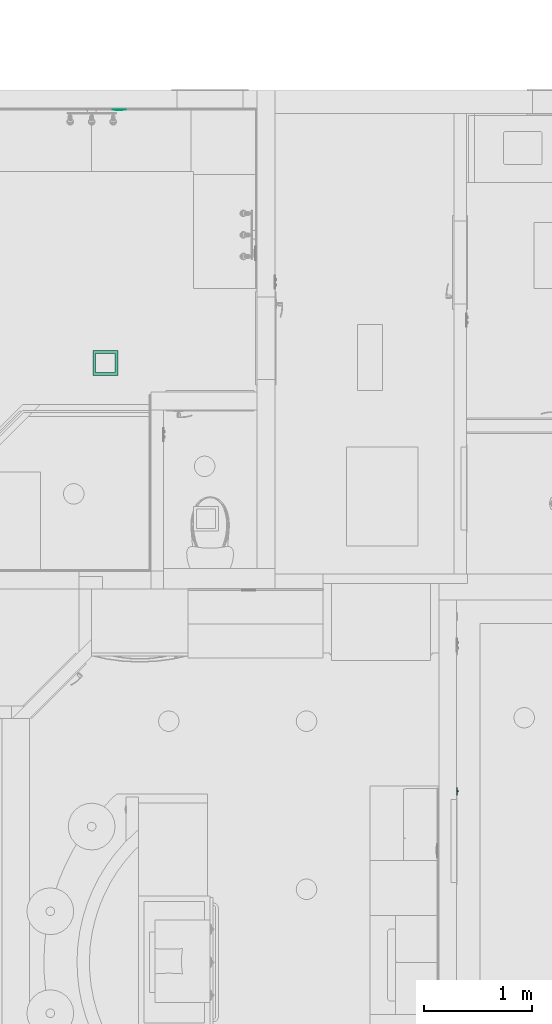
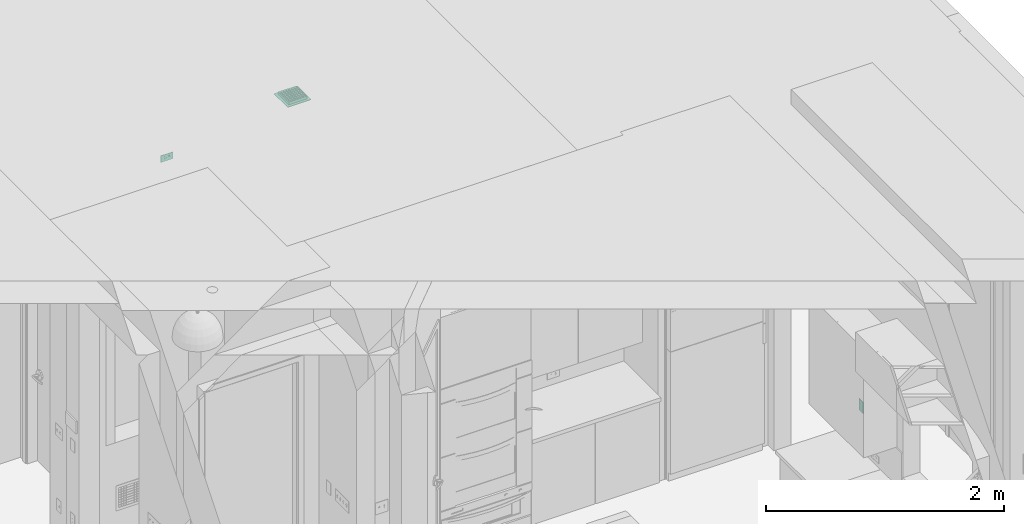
# One storey, part 26 of 103: 2 flow controllers, 1 distribution flow element.
"""IFC2X3 building model written with IfcOpenShell, lengths in inches."""

from ifc_helpers import new_model, entity, si_unit, converted_unit, derived_unit, money_unit, direction, frame, origin_with_axes, place, context, subcontext, project, spatial, open_shell, faceted_brep, surface_model, source, transform, mapped, type_object, element, save


model = new_model("IFC2X3")

# Units and contexts
model_context = context("Model", 3, precision=0.00039370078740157, world=origin_with_axes(), true_north=direction((0.0, 1.0)))
plan_context = context("Plan", 3, precision=0.00039370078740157, world=origin_with_axes(), true_north=direction((0.0, 1.0)))
body_context = subcontext(model_context, "Body", "Model", "MODEL_VIEW")
ifc_project = project(units=[converted_unit("LENGTHUNIT", "INCH", entity("IfcPositiveLengthMeasure", 0.0254), si_unit("LENGTHUNIT", "METRE"), dimensions=[1, 0, 0, 0, 0, 0, 0]), converted_unit("AREAUNIT", "SQUARE_FOOT", entity("IfcPositiveLengthMeasure", 0.09290304), si_unit("AREAUNIT", "SQUARE_METRE"), dimensions=[2, 0, 0, 0, 0, 0, 0]), si_unit("PLANEANGLEUNIT", "RADIAN"), si_unit("SOLIDANGLEUNIT", "STERADIAN"), money_unit("USD"), converted_unit("TIMEUNIT", "Year", entity("IfcTimeMeasure", 31557600.0), si_unit("TIMEUNIT", "SECOND"), dimensions=[0, 0, 1, 0, 0, 0, 0]), si_unit("MASSUNIT", "GRAM", prefix="KILO"), si_unit("THERMODYNAMICTEMPERATUREUNIT", "DEGREE_CELSIUS"), si_unit("LUMINOUSINTENSITYUNIT", "LUMEN"), si_unit("ENERGYUNIT", "JOULE", prefix="MEGA"), derived_unit("SPECIFICHEATCAPACITYUNIT", [(si_unit("ENERGYUNIT", "JOULE"), 1), (si_unit("MASSUNIT", "GRAM", prefix="KILO"), -1), (si_unit("THERMODYNAMICTEMPERATUREUNIT", "KELVIN"), -1)])], contexts=[model_context, plan_context])

# Site, building, storey
site_placement = place(None, origin_with_axes())
site = spatial("IfcSite", under=ifc_project, at=site_placement, Name="Site", CompositionType="ELEMENT")
building_placement = place(site_placement, origin_with_axes())
building = spatial("IfcBuilding", under=site, at=building_placement, Name="Building", CompositionType="ELEMENT")
storey_placement = place(building_placement, frame((0.0, 0.0, 127.9999999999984), z_axis=(0.0, 0.0, 1.0), x_axis=(1.0, 0.0, 0.0)))
storey = spatial("IfcBuildingStorey", under=building, at=storey_placement, Name="Second Floor", CompositionType="ELEMENT", Elevation=128.0)

# Flow controller
switching_device_type_1 = type_object("IfcSwitchingDeviceType", Name="Switch US", PredefinedType="NOTDEFINED")
shared_shape_1 = source(origin_with_axes(), body_context, "Body", "Brep", [
    faceted_brep([(0.196850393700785, 0.0, -0.5905511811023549), (-0.196850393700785, 0.0, -0.5905511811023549), (-0.196850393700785, 0.0, 0.5905511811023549), (0.196850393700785, 0.0, 0.5905511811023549), (0.196850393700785, -0.1033464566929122, -0.5905511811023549), (-0.196850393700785, -0.1033464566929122, -0.5905511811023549), (-0.196850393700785, -0.1033464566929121, 0.157480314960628), (-0.196850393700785, -0.4970472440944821, 0.1574803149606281), (-0.196850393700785, -0.4970472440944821, 0.472440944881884), (-0.196850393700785, -0.1033464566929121, 0.472440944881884), (-0.196850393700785, -0.1033464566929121, 0.5905511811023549), (0.196850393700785, -0.103346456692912, 0.5905511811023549), (0.196850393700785, -0.1033464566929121, 0.472440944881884), (0.196850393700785, -0.4970472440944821, 0.472440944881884), (0.196850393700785, -0.4970472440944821, 0.1574803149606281), (0.196850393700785, -0.1033464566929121, 0.157480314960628)], [[[0, 1, 2, 3]], [[4, 5, 1, 0]], [[1, 5, 6, 7, 8, 9, 10, 2]], [[3, 2, 10, 11]], [[0, 3, 11, 12, 13, 14, 15, 4]], [[15, 6, 5, 4]], [[14, 7, 6, 15]], [[13, 8, 7, 14]], [[12, 9, 8, 13]], [[11, 10, 9, 12]]]),
    faceted_brep([(0.275590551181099, 0.0, -0.669291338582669), (0.275590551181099, -0.1771653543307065, -0.669291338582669), (-0.275590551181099, -0.1771653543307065, -0.669291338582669), (-0.275590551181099, 0.0, -0.669291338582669), (0.275590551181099, 0.0, 0.669291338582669), (0.275590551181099, -0.1771653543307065, 0.669291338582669), (-0.275590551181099, -0.1771653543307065, 0.669291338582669), (0.196850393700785, -0.1771653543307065, -0.5905511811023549), (-0.196850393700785, -0.1771653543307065, -0.5905511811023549), (-0.196850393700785, -0.1771653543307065, 0.5905511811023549), (0.196850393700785, -0.1771653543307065, 0.5905511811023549), (-0.275590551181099, 0.0, 0.669291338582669), (0.196850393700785, 0.0, -0.5905511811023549), (0.196850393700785, 0.0, 0.5905511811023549), (-0.196850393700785, 0.0, 0.5905511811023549), (-0.196850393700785, 0.0, -0.5905511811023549)], [[[0, 1, 2, 3]], [[4, 5, 1, 0]], [[1, 5, 6, 2], [7, 8, 9, 10]], [[3, 2, 6, 11]], [[0, 3, 11, 4], [12, 13, 14, 15]], [[11, 6, 5, 4]], [[15, 8, 7, 12]], [[14, 9, 8, 15]], [[13, 10, 9, 14]], [[12, 7, 10, 13]]]),
    faceted_brep([(1.343503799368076, -0.1377952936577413, 2.32775574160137), (-1.343503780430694, -0.1377952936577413, 2.32775574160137), (-1.343503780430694, -0.1377952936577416, -2.327755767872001), (1.343503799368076, -0.1377952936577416, -2.327755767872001), (0.275590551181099, -0.1377952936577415, -0.669291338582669), (-0.275590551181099, -0.1377952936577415, -0.669291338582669), (-0.275590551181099, -0.1377952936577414, 0.669291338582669), (0.275590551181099, -0.1377952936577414, 0.669291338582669), (1.352419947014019, -0.1366214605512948, 2.336671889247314), (-1.352419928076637, -0.1366214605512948, 2.336671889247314), (-1.352419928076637, -0.1366214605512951, -2.336671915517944), (1.352419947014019, -0.1366214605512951, -2.336671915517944), (-0.275590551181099, 0.0, -0.669291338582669), (0.275590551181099, 0.0, -0.669291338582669), (-0.275590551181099, 0.0, 0.669291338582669), (0.275590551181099, 0.0, 0.669291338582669), (1.36786294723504, -0.1277054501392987, 2.352114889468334), (-1.367862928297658, -0.1277054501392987, 2.352114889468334), (-1.367862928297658, -0.1277054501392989, -2.352114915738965), (1.36786294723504, -0.1277054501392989, -2.352114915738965), (1.377952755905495, 0.0, 2.36220472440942), (1.377952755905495, 0.0, -2.36220472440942), (-1.377952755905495, 0.0, -2.36220472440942), (-1.377952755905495, 0.0, 2.36220472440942), (1.376778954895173, -0.1122624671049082, 2.361030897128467), (-1.376778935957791, -0.1122624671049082, 2.361030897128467), (-1.376778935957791, -0.1122624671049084, -2.361030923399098), (1.376778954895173, -0.1122624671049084, -2.361030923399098), (1.377952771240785, -0.103346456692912, 2.362204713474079), (1.377952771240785, -0.1033464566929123, -2.36220473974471), (-1.377952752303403, -0.1033464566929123, -2.36220473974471), (-1.377952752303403, -0.103346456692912, 2.362204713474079)], [[[0, 1, 2, 3], [4, 5, 6, 7]], [[8, 9, 1, 0]], [[9, 10, 2, 1]], [[10, 11, 3, 2]], [[11, 8, 0, 3]], [[12, 5, 4, 13]], [[14, 6, 5, 12]], [[15, 7, 6, 14]], [[13, 4, 7, 15]], [[16, 17, 9, 8]], [[17, 18, 10, 9]], [[18, 19, 11, 10]], [[19, 16, 8, 11]], [[20, 21, 22, 23], [13, 15, 14, 12]], [[24, 25, 17, 16]], [[25, 26, 18, 17]], [[26, 27, 19, 18]], [[27, 24, 16, 19]], [[21, 20, 28, 29]], [[22, 21, 29, 30]], [[23, 22, 30, 31]], [[20, 23, 31, 28]], [[28, 31, 25, 24]], [[31, 30, 26, 25]], [[30, 29, 27, 26]], [[29, 28, 24, 27]]]),
])
flow_controller_1_placement = place(storey_placement, frame((161.4999999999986, 321.9999999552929, 43.99999999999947), z_axis=(0.0, 0.0, 1.0), x_axis=(0.0, 1.0, 0.0)))
element("IfcFlowController", 1, at=flow_controller_1_placement, inside=storey, type_object=switching_device_type_1, Name="OBJ-09", context=body_context, shape_type="MappedRepresentation", body=[
    mapped(shared_shape_1, transform((0.0, 0.0, 0.0))),
])

# Distribution flow element
valve_type = type_object("IfcValveType", Name="Ceiling Grille", PredefinedType="NOTDEFINED")
shared_shape_2 = source(origin_with_axes(), body_context, "Body", "SurfaceModel", [
    faceted_brep([(-4.499876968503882, 4.499876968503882, -0.196850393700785), (-4.499876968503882, 4.499876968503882, 0.0), (4.499876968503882, 4.499876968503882, 0.0), (4.499876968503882, 4.499876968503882, -0.196850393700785), (-4.499876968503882, -4.499876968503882, -0.196850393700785), (-4.499876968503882, -4.499876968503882, 0.0), (4.499876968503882, -4.499876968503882, 0.0), (-3.515624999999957, 3.515624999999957, 0.0), (3.515624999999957, 3.515624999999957, 0.0), (3.515624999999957, -3.515624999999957, 0.0), (-3.515624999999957, -3.515624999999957, 0.0), (4.499876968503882, -4.499876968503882, -0.196850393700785), (-3.515624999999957, 3.515624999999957, -0.196850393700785), (-3.515624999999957, -3.515624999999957, -0.196850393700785), (3.515624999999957, -3.515624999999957, -0.196850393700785), (3.515624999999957, 3.515624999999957, -0.196850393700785)], [[[0, 1, 2, 3]], [[4, 5, 1, 0]], [[1, 5, 6, 2], [7, 8, 9, 10]], [[3, 2, 6, 11]], [[0, 3, 11, 4], [12, 13, 14, 15]], [[11, 6, 5, 4]], [[15, 8, 7, 12]], [[14, 9, 8, 15]], [[13, 10, 9, 14]], [[12, 7, 10, 13]]]),
    surface_model("IfcShellBasedSurfaceModel", [(3.4762549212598, 3.499999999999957, -0.196850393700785), (3.4762549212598, 3.499999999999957, 0.78740157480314), (-3.4762549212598, 3.499999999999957, 0.78740157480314), (-3.4762549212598, 3.499999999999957, -0.196850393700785)], [open_shell([[[0, 1, 2, 3]]])]),
    surface_model("IfcShellBasedSurfaceModel", [(3.4762549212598, 2.499999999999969, -0.196850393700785), (3.4762549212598, 2.499999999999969, 0.78740157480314), (-3.4762549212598, 2.499999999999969, 0.78740157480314), (-3.4762549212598, 2.499999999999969, -0.196850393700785)], [open_shell([[[0, 1, 2, 3]]])]),
    surface_model("IfcShellBasedSurfaceModel", [(3.4762549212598, 1.499999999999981, -0.196850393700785), (3.4762549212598, 1.499999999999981, 0.78740157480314), (-3.4762549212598, 1.499999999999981, 0.78740157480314), (-3.4762549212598, 1.499999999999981, -0.196850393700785)], [open_shell([[[0, 1, 2, 3]]])]),
    surface_model("IfcShellBasedSurfaceModel", [(3.4762549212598, 0.499999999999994, -0.196850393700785), (3.4762549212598, 0.4999999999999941, 0.78740157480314), (-3.4762549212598, 0.4999999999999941, 0.78740157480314), (-3.4762549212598, 0.499999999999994, -0.196850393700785)], [open_shell([[[0, 1, 2, 3]]])]),
    surface_model("IfcShellBasedSurfaceModel", [(3.4762549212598, -0.499999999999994, -0.196850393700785), (3.4762549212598, -0.4999999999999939, 0.78740157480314), (-3.4762549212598, -0.4999999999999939, 0.78740157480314), (-3.4762549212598, -0.499999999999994, -0.196850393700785)], [open_shell([[[0, 1, 2, 3]]])]),
    surface_model("IfcShellBasedSurfaceModel", [(3.4762549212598, -1.499999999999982, -0.196850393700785), (3.4762549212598, -1.499999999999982, 0.78740157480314), (-3.4762549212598, -1.499999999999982, 0.78740157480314), (-3.4762549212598, -1.499999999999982, -0.196850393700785)], [open_shell([[[0, 1, 2, 3]]])]),
    surface_model("IfcShellBasedSurfaceModel", [(3.4762549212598, -2.499999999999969, -0.196850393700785), (3.4762549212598, -2.499999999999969, 0.78740157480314), (-3.4762549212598, -2.499999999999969, 0.78740157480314), (-3.4762549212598, -2.499999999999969, -0.196850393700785)], [open_shell([[[0, 1, 2, 3]]])]),
    surface_model("IfcShellBasedSurfaceModel", [(3.4762549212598, -3.499999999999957, -0.196850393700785), (3.4762549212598, -3.499999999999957, 0.78740157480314), (-3.4762549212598, -3.499999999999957, 0.78740157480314), (-3.4762549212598, -3.499999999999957, -0.196850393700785)], [open_shell([[[0, 1, 2, 3]]])]),
    surface_model("IfcShellBasedSurfaceModel", [(-3.499999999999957, -3.4762549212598, -0.196850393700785), (-3.499999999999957, -3.4762549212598, 0.78740157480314), (-3.499999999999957, 3.4762549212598, 0.78740157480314), (-3.499999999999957, 3.4762549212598, -0.196850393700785)], [open_shell([[[0, 1, 2, 3]]])]),
    surface_model("IfcShellBasedSurfaceModel", [(-2.499999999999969, -3.4762549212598, -0.196850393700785), (-2.499999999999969, -3.4762549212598, 0.78740157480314), (-2.49999999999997, 3.4762549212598, 0.78740157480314), (-2.49999999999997, 3.4762549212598, -0.196850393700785)], [open_shell([[[0, 1, 2, 3]]])]),
    surface_model("IfcShellBasedSurfaceModel", [(-1.499999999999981, -3.4762549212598, -0.196850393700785), (-1.499999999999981, -3.4762549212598, 0.78740157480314), (-1.499999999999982, 3.4762549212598, 0.78740157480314), (-1.499999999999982, 3.4762549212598, -0.196850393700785)], [open_shell([[[0, 1, 2, 3]]])]),
    surface_model("IfcShellBasedSurfaceModel", [(-0.499999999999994, -3.4762549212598, -0.196850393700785), (-0.4999999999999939, -3.4762549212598, 0.78740157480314), (-0.4999999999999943, 3.4762549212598, 0.78740157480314), (-0.4999999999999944, 3.4762549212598, -0.196850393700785)], [open_shell([[[0, 1, 2, 3]]])]),
    surface_model("IfcShellBasedSurfaceModel", [(0.499999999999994, -3.4762549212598, -0.196850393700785), (0.4999999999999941, -3.4762549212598, 0.78740157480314), (0.4999999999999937, 3.4762549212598, 0.78740157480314), (0.4999999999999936, 3.4762549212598, -0.196850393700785)], [open_shell([[[0, 1, 2, 3]]])]),
    surface_model("IfcShellBasedSurfaceModel", [(1.499999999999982, -3.4762549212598, -0.196850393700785), (1.499999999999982, -3.4762549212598, 0.78740157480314), (1.499999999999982, 3.4762549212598, 0.78740157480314), (1.499999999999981, 3.4762549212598, -0.196850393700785)], [open_shell([[[0, 1, 2, 3]]])]),
    surface_model("IfcShellBasedSurfaceModel", [(2.499999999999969, -3.4762549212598, -0.196850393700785), (2.499999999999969, -3.4762549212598, 0.78740157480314), (2.499999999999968, 3.4762549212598, 0.78740157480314), (2.499999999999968, 3.4762549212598, -0.196850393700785)], [open_shell([[[0, 1, 2, 3]]])]),
    surface_model("IfcShellBasedSurfaceModel", [(3.499999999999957, -3.4762549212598, -0.196850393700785), (3.499999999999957, -3.4762549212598, 0.78740157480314), (3.499999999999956, 3.4762549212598, 0.78740157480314), (3.499999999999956, 3.4762549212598, -0.196850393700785)], [open_shell([[[0, 1, 2, 3]]])]),
    surface_model("IfcShellBasedSurfaceModel", [(-3.515624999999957, -3.515624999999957, 0.0), (-3.515624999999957, -3.515624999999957, 0.999999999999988), (-3.515624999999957, 3.515624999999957, 0.9999999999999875), (-3.515624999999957, 3.515624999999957, 0.0), (3.515624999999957, -3.515624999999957, 0.0), (3.515624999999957, -3.515624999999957, 0.999999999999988), (3.515624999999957, 3.515624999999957, 0.9999999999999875), (3.515624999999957, 3.515624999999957, 0.0)], [open_shell([[[0, 1, 2, 3]], [[4, 5, 1, 0]], [[3, 2, 6, 7]], [[7, 6, 5, 4]]])]),
])
distribution_flow_element_placement = place(storey_placement, frame((34.00011378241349, 477.4987278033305, 119.4999999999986), z_axis=(0.0, 0.0, 1.0), x_axis=(-0.9999999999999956, -9.406550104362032e-08, 0.0)))
element("IfcDistributionFlowElement", 2, at=distribution_flow_element_placement, inside=storey, type_object=valve_type, Name="FU - 007", context=body_context, shape_type="MappedRepresentation", body=[
    mapped(shared_shape_2, transform((0.0, 0.0, 0.0))),
])

# Flow controller
switching_device_type_2 = type_object("IfcSwitchingDeviceType", Name="Outlet 1 US", PredefinedType="NOTDEFINED")
shared_shape_3 = source(origin_with_axes(), body_context, "Body", "Brep", [
    faceted_brep([(1.18110236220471, -0.03444881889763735, 0.3937007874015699), (0.708661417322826, -0.03444881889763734, 0.5436477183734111), (0.708661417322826, -0.2165354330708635, 0.5436477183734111), (1.18110236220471, -0.2165354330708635, 0.3937007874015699), (1.18110236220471, -0.0344488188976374, -0.3937007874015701), (0.708661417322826, -0.03444881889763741, -0.543647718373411), (0.2362204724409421, -0.0344488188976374, -0.3937007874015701), (0.2362204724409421, -0.03444881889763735, 0.3937007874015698), (0.7086614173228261, -0.03444881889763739, -0.196850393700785), (0.472440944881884, -0.03444881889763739, -0.196850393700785), (0.472440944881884, -0.03444881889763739, -0.275590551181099), (0.7086614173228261, -0.03444881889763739, -0.275590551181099), (0.7086614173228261, -0.03444881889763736, 0.196850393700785), (0.7086614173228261, -0.03444881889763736, 0.275590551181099), (0.472440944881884, -0.03444881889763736, 0.275590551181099), (0.472440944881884, -0.03444881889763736, 0.196850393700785), (1.102362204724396, -0.03444881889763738, -0.07874015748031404), (1.102362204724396, -0.03444881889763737, 0.07874015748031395), (1.023622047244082, -0.03444881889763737, 0.07874015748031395), (0.984251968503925, -0.03444881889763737, 0.06819097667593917), (0.9554310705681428, -0.03444881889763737, 0.03937007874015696), (0.944881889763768, -0.03444881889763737, 0.0), (0.9554310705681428, -0.03444881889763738, -0.03937007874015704), (0.984251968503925, -0.03444881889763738, -0.06819097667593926), (1.023622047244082, -0.03444881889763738, -0.07874015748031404), (0.2362204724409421, -0.2165354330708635, 0.3937007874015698), (0.2362204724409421, -0.2165354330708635, -0.3937007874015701), (0.708661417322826, -0.2165354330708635, -0.543647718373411), (1.18110236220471, -0.2165354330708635, -0.3937007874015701), (0.7086614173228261, -0.2165354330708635, -0.196850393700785), (0.7086614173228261, -0.2165354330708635, -0.275590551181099), (0.472440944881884, -0.2165354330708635, -0.275590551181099), (0.472440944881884, -0.2165354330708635, -0.196850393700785), (0.7086614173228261, -0.2165354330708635, 0.196850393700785), (0.472440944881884, -0.2165354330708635, 0.196850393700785), (0.472440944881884, -0.2165354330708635, 0.275590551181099), (0.7086614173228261, -0.2165354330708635, 0.275590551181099), (1.102362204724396, -0.2165354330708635, -0.07874015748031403), (1.023622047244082, -0.2165354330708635, -0.07874015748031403), (0.984251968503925, -0.2165354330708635, -0.06819097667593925), (0.9554310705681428, -0.2165354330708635, -0.03937007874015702), (0.944881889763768, -0.2165354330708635, 0.0), (0.9554310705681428, -0.2165354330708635, 0.03937007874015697), (0.984251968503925, -0.2165354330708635, 0.06819097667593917), (1.023622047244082, -0.2165354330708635, 0.07874015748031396), (1.102362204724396, -0.2165354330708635, 0.07874015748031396)], [[[0, 1, 2, 3]], [[0, 4, 5, 6, 7, 1], [8, 9, 10, 11], [12, 13, 14, 15], [16, 17, 18, 19, 20, 21, 22, 23, 24]], [[1, 7, 25, 2]], [[3, 2, 25, 26, 27, 28], [29, 30, 31, 32], [33, 34, 35, 36], [37, 38, 39, 40, 41, 42, 43, 44, 45]], [[4, 0, 3, 28]], [[5, 4, 28, 27]], [[6, 5, 27, 26]], [[7, 6, 26, 25]], [[9, 8, 29, 32]], [[10, 9, 32, 31]], [[11, 10, 31, 30]], [[8, 11, 30, 29]], [[13, 12, 33, 36]], [[14, 13, 36, 35]], [[15, 14, 35, 34]], [[12, 15, 34, 33]], [[17, 16, 37, 45]], [[18, 17, 45, 44]], [[19, 18, 44, 43]], [[20, 19, 43, 42]], [[21, 20, 42, 41]], [[22, 21, 41, 40]], [[23, 22, 40, 39]], [[24, 23, 39, 38]], [[16, 24, 38, 37]]]),
    faceted_brep([(-0.2362204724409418, -0.03444881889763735, 0.3937007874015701), (-0.708661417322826, -0.03444881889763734, 0.5436477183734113), (-0.708661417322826, -0.2165354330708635, 0.5436477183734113), (-0.2362204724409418, -0.2165354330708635, 0.3937007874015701), (-0.2362204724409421, -0.0344488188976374, -0.39370078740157), (-0.708661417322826, -0.03444881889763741, -0.5436477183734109), (-1.18110236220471, -0.0344488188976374, -0.3937007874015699), (-1.18110236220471, -0.03444881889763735, 0.39370078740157), (-0.7086614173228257, -0.03444881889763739, -0.196850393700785), (-0.9448818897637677, -0.03444881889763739, -0.196850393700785), (-0.9448818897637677, -0.03444881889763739, -0.275590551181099), (-0.7086614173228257, -0.03444881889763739, -0.275590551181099), (-0.7086614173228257, -0.03444881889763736, 0.196850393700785), (-0.7086614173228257, -0.03444881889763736, 0.275590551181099), (-0.9448818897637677, -0.03444881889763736, 0.275590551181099), (-0.9448818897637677, -0.03444881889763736, 0.196850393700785), (-0.3149606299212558, -0.03444881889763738, -0.07874015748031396), (-0.3149606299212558, -0.03444881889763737, 0.07874015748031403), (-0.3937007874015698, -0.03444881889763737, 0.07874015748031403), (-0.4330708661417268, -0.03444881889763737, 0.06819097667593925), (-0.461891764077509, -0.03444881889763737, 0.03937007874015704), (-0.4724409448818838, -0.03444881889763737, 0.0), (-0.461891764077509, -0.03444881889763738, -0.03937007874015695), (-0.4330708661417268, -0.03444881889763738, -0.06819097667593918), (-0.3937007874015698, -0.03444881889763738, -0.07874015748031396), (-1.18110236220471, -0.2165354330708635, 0.39370078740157), (-1.18110236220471, -0.2165354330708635, -0.3937007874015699), (-0.708661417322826, -0.2165354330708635, -0.5436477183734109), (-0.2362204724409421, -0.2165354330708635, -0.39370078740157), (-0.7086614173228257, -0.2165354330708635, -0.196850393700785), (-0.7086614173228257, -0.2165354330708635, -0.275590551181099), (-0.9448818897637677, -0.2165354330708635, -0.275590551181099), (-0.9448818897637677, -0.2165354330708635, -0.196850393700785), (-0.7086614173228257, -0.2165354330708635, 0.196850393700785), (-0.9448818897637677, -0.2165354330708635, 0.196850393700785), (-0.9448818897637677, -0.2165354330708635, 0.275590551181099), (-0.7086614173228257, -0.2165354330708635, 0.275590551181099), (-0.3149606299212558, -0.2165354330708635, -0.07874015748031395), (-0.3937007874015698, -0.2165354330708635, -0.07874015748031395), (-0.4330708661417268, -0.2165354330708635, -0.06819097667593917), (-0.461891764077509, -0.2165354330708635, -0.03937007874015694), (-0.4724409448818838, -0.2165354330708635, 0.0), (-0.461891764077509, -0.2165354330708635, 0.03937007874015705), (-0.4330708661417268, -0.2165354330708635, 0.06819097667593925), (-0.3937007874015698, -0.2165354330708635, 0.07874015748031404), (-0.3149606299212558, -0.2165354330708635, 0.07874015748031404)], [[[0, 1, 2, 3]], [[0, 4, 5, 6, 7, 1], [8, 9, 10, 11], [12, 13, 14, 15], [16, 17, 18, 19, 20, 21, 22, 23, 24]], [[1, 7, 25, 2]], [[3, 2, 25, 26, 27, 28], [29, 30, 31, 32], [33, 34, 35, 36], [37, 38, 39, 40, 41, 42, 43, 44, 45]], [[4, 0, 3, 28]], [[5, 4, 28, 27]], [[6, 5, 27, 26]], [[7, 6, 26, 25]], [[9, 8, 29, 32]], [[10, 9, 32, 31]], [[11, 10, 31, 30]], [[8, 11, 30, 29]], [[13, 12, 33, 36]], [[14, 13, 36, 35]], [[15, 14, 35, 34]], [[12, 15, 34, 33]], [[17, 16, 37, 45]], [[18, 17, 45, 44]], [[19, 18, 44, 43]], [[20, 19, 43, 42]], [[21, 20, 42, 41]], [[22, 21, 41, 40]], [[23, 22, 40, 39]], [[24, 23, 39, 38]], [[16, 24, 38, 37]]]),
    faceted_brep([(2.327755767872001, -0.1377952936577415, -1.343503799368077), (2.327755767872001, -0.1377952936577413, 1.343503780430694), (-2.32775574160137, -0.1377952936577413, 1.343503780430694), (-2.32775574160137, -0.1377952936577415, -1.343503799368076), (1.18110236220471, -0.1377952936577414, -0.39370078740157), (0.708661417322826, -0.1377952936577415, -0.5436477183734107), (0.2362204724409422, -0.1377952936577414, -0.39370078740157), (0.2362204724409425, -0.1377952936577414, 0.3937007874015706), (0.7086614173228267, -0.1377952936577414, 0.5436477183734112), (1.18110236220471, -0.1377952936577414, 0.3937007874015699), (-1.181102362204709, -0.1377952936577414, 0.3937007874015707), (-0.7086614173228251, -0.1377952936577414, 0.5436477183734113), (-0.2362204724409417, -0.1377952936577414, 0.39370078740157), (-0.2362204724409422, -0.1377952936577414, -0.3937007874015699), (-0.708661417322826, -0.1377952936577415, -0.5436477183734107), (-1.18110236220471, -0.1377952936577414, -0.3937007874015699), (2.336671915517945, -0.1366214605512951, -1.352419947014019), (2.336671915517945, -0.1366214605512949, 1.352419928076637), (-2.336671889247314, -0.1366214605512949, 1.352419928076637), (-2.336671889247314, -0.1366214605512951, -1.352419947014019), (1.18110236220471, -0.0344488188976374, -0.39370078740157), (0.708661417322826, -0.0344488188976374, -0.5436477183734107), (0.2362204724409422, -0.0344488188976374, -0.39370078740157), (0.2362204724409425, -0.03444881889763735, 0.3937007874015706), (0.7086614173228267, -0.03444881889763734, 0.5436477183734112), (1.18110236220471, -0.03444881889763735, 0.3937007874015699), (-1.181102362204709, -0.03444881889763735, 0.3937007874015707), (-0.7086614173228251, -0.03444881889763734, 0.5436477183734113), (-0.2362204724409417, -0.03444881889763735, 0.39370078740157), (-0.2362204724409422, -0.0344488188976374, -0.3937007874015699), (-0.708661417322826, -0.0344488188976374, -0.5436477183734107), (-1.18110236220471, -0.0344488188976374, -0.3937007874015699), (2.352114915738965, -0.1277054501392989, -1.36786294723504), (2.352114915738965, -0.1277054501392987, 1.367862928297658), (-2.352114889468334, -0.1277054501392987, 1.367862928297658), (-2.352114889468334, -0.1277054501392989, -1.367862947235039), (2.361030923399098, -0.1122624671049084, -1.376778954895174), (2.361030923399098, -0.1122624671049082, 1.376778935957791), (-2.361030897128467, -0.1122624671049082, 1.376778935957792), (-2.361030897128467, -0.1122624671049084, -1.376778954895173), (2.36220473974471, -0.1033464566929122, -1.377952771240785), (2.36220473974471, -0.103346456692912, 1.377952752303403), (-2.362204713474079, -0.103346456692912, 1.377952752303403), (-2.362204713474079, -0.1033464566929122, -1.377952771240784), (2.36220472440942, 0.0, -1.377952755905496), (2.36220472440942, 0.0, 1.377952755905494), (-2.36220472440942, 0.0, 1.377952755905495), (-2.36220472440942, 0.0, -1.377952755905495)], [[[0, 1, 2, 3], [4, 5, 6, 7, 8, 9], [10, 11, 12, 13, 14, 15]], [[1, 0, 16, 17]], [[2, 1, 17, 18]], [[3, 2, 18, 19]], [[0, 3, 19, 16]], [[4, 20, 21, 5]], [[5, 21, 22, 6]], [[6, 22, 23, 7]], [[7, 23, 24, 8]], [[8, 24, 25, 9]], [[9, 25, 20, 4]], [[11, 10, 26, 27]], [[12, 11, 27, 28]], [[13, 12, 28, 29]], [[14, 13, 29, 30]], [[15, 14, 30, 31]], [[10, 15, 31, 26]], [[17, 16, 32, 33]], [[18, 17, 33, 34]], [[19, 18, 34, 35]], [[16, 19, 35, 32]], [[21, 20, 25, 24, 23, 22]], [[27, 26, 31, 30, 29, 28]], [[33, 32, 36, 37]], [[34, 33, 37, 38]], [[35, 34, 38, 39]], [[32, 35, 39, 36]], [[37, 36, 40, 41]], [[38, 37, 41, 42]], [[39, 38, 42, 43]], [[36, 39, 43, 40]], [[41, 40, 44, 45]], [[42, 41, 45, 46]], [[43, 42, 46, 47]], [[40, 43, 47, 44]], [[46, 45, 44, 47]]]),
])
flow_controller_2_placement = place(storey_placement, frame((38.99677139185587, 569.503864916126, 37.49803149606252), z_axis=(0.0, 0.0, 1.0), x_axis=(0.9999999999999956, 9.406550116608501e-08, 0.0)))
element("IfcFlowController", 3, at=flow_controller_2_placement, inside=storey, type_object=switching_device_type_2, Name="FU - 029", context=body_context, shape_type="MappedRepresentation", body=[
    mapped(shared_shape_3, transform((0.0, 0.0, 0.0))),
])

save(model, "model.ifc")
